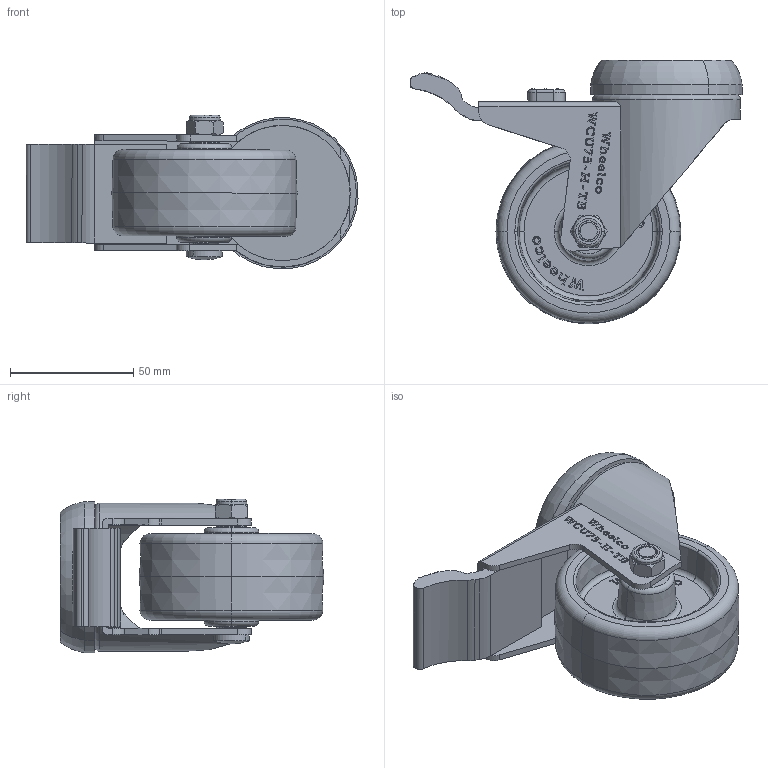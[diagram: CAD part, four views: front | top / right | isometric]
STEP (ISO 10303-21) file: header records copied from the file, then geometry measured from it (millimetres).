
FILE_DESCRIPTION (( 'STEP AP214' ), '1' );
FILE_NAME ('WCN75-H-TB.step', '2024-01-12T00:43:06', ( '' ), ( '' ), 'SwSTEP 2.0', 'SolidWorks 2022', '' );
FILE_SCHEMA (( 'AUTOMOTIVE_DESIGN' ));
Length unit declared in the file: millimetre
Products named in the file (9): WCU75-H-TB; SP12-8-41; M8Nyloc; BREAK; WCN75; 61.5 TOP CAP; break step; WC-M8x55; WCN75-H-TB
Assembly tree (8 placements, depth 2):
  WCN75-H-TB
    WCU75-H-TB
    WC-M8x55
    M8Nyloc
    61.5 TOP CAP
    break step
    BREAK
    SP12-8-41
    WCN75
Bounding box: 134.69 x 107 x 62.31 mm (x, y, z)
Volume: 179534.8 mm3; surface area: 69554.6 mm2
Topology: 8 solids, 8 shells, 805 faces, 2162 edges, 1423 vertices
Faces by surface type: plane 422, bspline 225, cylinder 95, torus 36, cone 26, sphere 1
Entity records: 42689 total; most frequent: CARTESIAN_POINT 20804, ORIENTED_EDGE 4318, DIRECTION 3009, EDGE_CURVE 2159, VERTEX_POINT 1421, VECTOR 1375, LINE 1375, EDGE_LOOP 870
